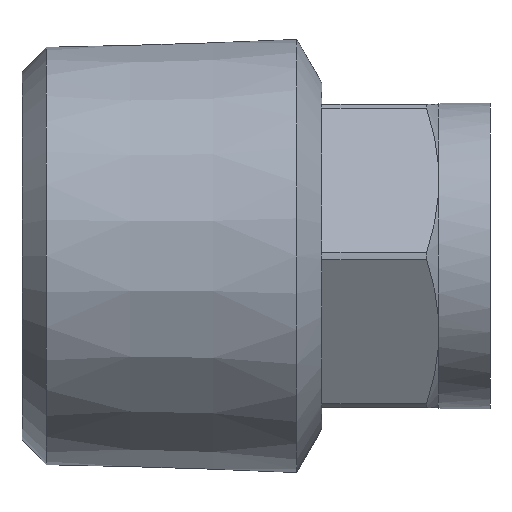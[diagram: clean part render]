
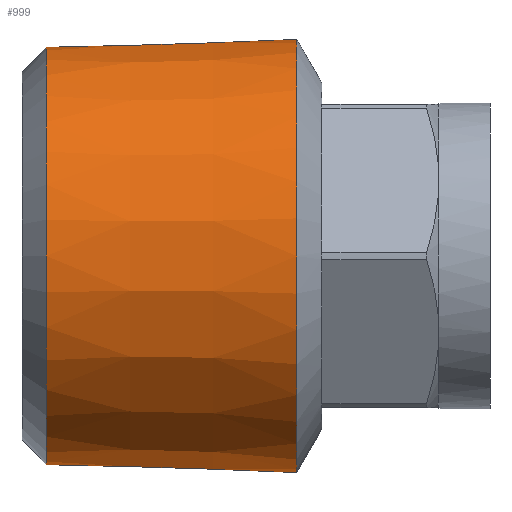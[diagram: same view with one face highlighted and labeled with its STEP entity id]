
A CAD part, front view. The second image highlights one B-rep face of the part: STEP entity #999.
In plain terms, the highlighted conical face has half-angle 1.79 degrees and reference radius 10.431 mm.
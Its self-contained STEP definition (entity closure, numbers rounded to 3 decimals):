
#948=CARTESIAN_POINT('',(1.199,10.257,0.));
#949=VERTEX_POINT('',#948);
#950=CARTESIAN_POINT('',(1.199,0.0,0.));
#951=DIRECTION('',(-1.0,0.0,0.0));
#952=DIRECTION('',(0.0,-1.0,0.0));
#953=AXIS2_PLACEMENT_3D('',#950,#951,#952);
#954=CIRCLE('',#953,10.257);
#955=EDGE_CURVE('',#949,#949,#954,.T.);
#980=CARTESIAN_POINT('',(6.75,0.0,0.0));
#981=DIRECTION('',(1.0,0.0,0.0));
#982=DIRECTION('',(0.0,1.0,0.0));
#983=AXIS2_PLACEMENT_3D('',#980,#981,#982);
#984=CONICAL_SURFACE('',#983,10.431,1.79);
#985=CARTESIAN_POINT('',(13.5,10.642,0.0));
#986=VERTEX_POINT('',#985);
#987=CARTESIAN_POINT('',(13.5,0.0,0.0));
#988=DIRECTION('',(1.0,0.0,0.0));
#989=DIRECTION('',(0.0,1.0,0.0));
#990=AXIS2_PLACEMENT_3D('',#987,#988,#989);
#991=CIRCLE('',#990,10.642);
#992=EDGE_CURVE('',#986,#986,#991,.T.);
#993=ORIENTED_EDGE('',*,*,#992,.F.);
#994=EDGE_LOOP('',(#993));
#995=FACE_OUTER_BOUND('',#994,.T.);
#996=ORIENTED_EDGE('',*,*,#955,.F.);
#997=EDGE_LOOP('',(#996));
#998=FACE_BOUND('',#997,.T.);
#999=ADVANCED_FACE('',(#995,#998),#984,.T.);
